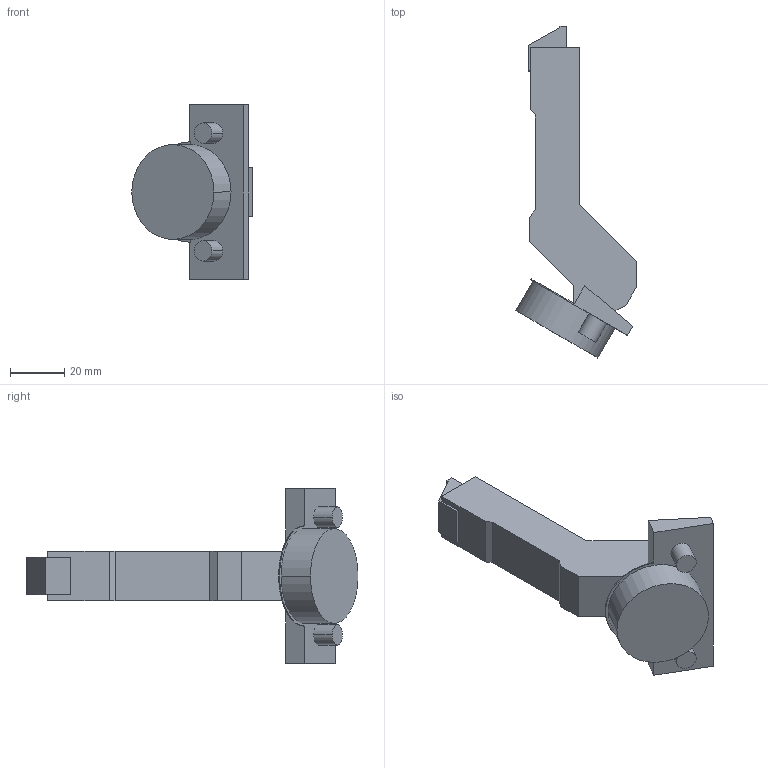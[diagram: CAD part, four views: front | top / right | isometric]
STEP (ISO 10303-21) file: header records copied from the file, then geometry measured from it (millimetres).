
FILE_DESCRIPTION (( 'STEP AP214' ), '1' );
FILE_NAME ('Scharnier TS Impresso 110°_+30° GB_BB, einliegend.step', '2010-12-13T10:22:15', ( 'grass' ), ( '' ), 'SwSTEP 2.0', 'SolidWorks 2010', '' );
FILE_SCHEMA (( 'AUTOMOTIVE_DESIGN' ));
Length unit declared in the file: millimetre
Products named in the file (1): Scharnier TS Impresso 110°_+30° GB_BB, einliegend
Bounding box: 44.44 x 122.51 x 64.5 mm (x, y, z)
Volume: 57587.9 mm3; surface area: 14973.3 mm2
Topology: 1 solids, 3 shells, 62 faces, 150 edges, 100 vertices
Faces by surface type: plane 44, cylinder 18
Entity records: 1840 total; most frequent: CARTESIAN_POINT 313, DIRECTION 312, ORIENTED_EDGE 300, EDGE_CURVE 150, LINE 114, VECTOR 114, VERTEX_POINT 100, AXIS2_PLACEMENT_3D 99
